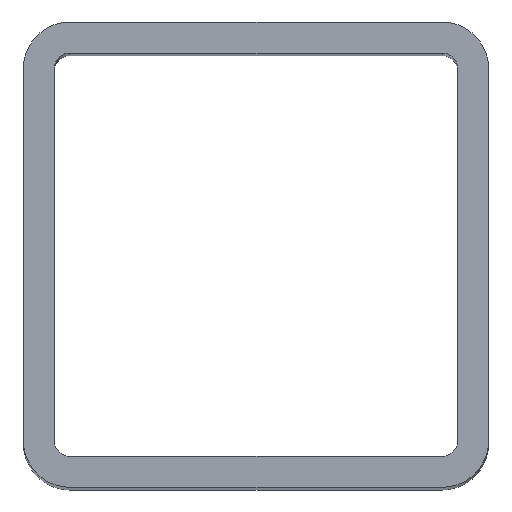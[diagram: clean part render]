
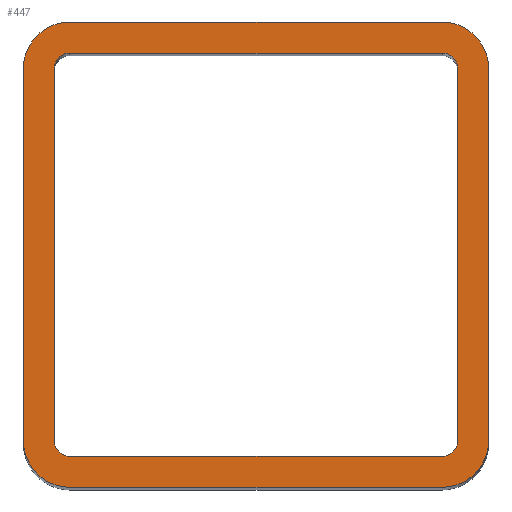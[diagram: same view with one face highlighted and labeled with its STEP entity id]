
A CAD part, top view. The second image highlights one B-rep face of the part: STEP entity #447.
In plain terms, the highlighted planar face has unit normal (0, 0, 1).
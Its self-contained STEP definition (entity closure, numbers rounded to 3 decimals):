
#2 = DIRECTION ( 'NONE',  ( 1., 0., 0. ) ) ;
#9 = DIRECTION ( 'NONE',  ( -1., 0., 0. ) ) ;
#10 = LINE ( 'NONE', #260, #309 ) ;
#21 = AXIS2_PLACEMENT_3D ( 'NONE', #455, #496, #396 ) ;
#24 = DIRECTION ( 'NONE',  ( -1., 0., 0. ) ) ;
#33 = VERTEX_POINT ( 'NONE', #321 ) ;
#34 = VECTOR ( 'NONE', #452, 1000. ) ;
#35 = CARTESIAN_POINT ( 'NONE',  ( -13., 12., 100. ) ) ;
#36 = EDGE_CURVE ( 'NONE', #634, #520, #10, .T. ) ;
#40 = ORIENTED_EDGE ( 'NONE', *, *, #647, .T. ) ;
#41 = DIRECTION ( 'NONE',  ( 0., 0., 1. ) ) ;
#48 = VERTEX_POINT ( 'NONE', #165 ) ;
#49 = ORIENTED_EDGE ( 'NONE', *, *, #344, .T. ) ;
#56 = AXIS2_PLACEMENT_3D ( 'NONE', #483, #489, #393 ) ;
#58 = ORIENTED_EDGE ( 'NONE', *, *, #123, .F. ) ;
#60 = VECTOR ( 'NONE', #102, 1000. ) ;
#62 = DIRECTION ( 'NONE',  ( -1., 0., 0. ) ) ;
#71 = ORIENTED_EDGE ( 'NONE', *, *, #398, .T. ) ;
#79 = ORIENTED_EDGE ( 'NONE', *, *, #402, .T. ) ;
#86 = AXIS2_PLACEMENT_3D ( 'NONE', #131, #266, #626 ) ;
#93 = VERTEX_POINT ( 'NONE', #381 ) ;
#98 = CARTESIAN_POINT ( 'NONE',  ( 15., 12., 100. ) ) ;
#100 = DIRECTION ( 'NONE',  ( 1., 0., 0. ) ) ;
#102 = DIRECTION ( 'NONE',  ( 0., 1., 0. ) ) ;
#103 = DIRECTION ( 'NONE',  ( 0., 0., 1. ) ) ;
#107 = DIRECTION ( 'NONE',  ( 1., 0., 0. ) ) ;
#108 = CARTESIAN_POINT ( 'NONE',  ( -12., -15., 100. ) ) ;
#109 = ORIENTED_EDGE ( 'NONE', *, *, #317, .F. ) ;
#116 = CARTESIAN_POINT ( 'NONE',  ( -13., -12., 100. ) ) ;
#123 = EDGE_CURVE ( 'NONE', #520, #186, #268, .T. ) ;
#124 = AXIS2_PLACEMENT_3D ( 'NONE', #236, #596, #2 ) ;
#129 = VECTOR ( 'NONE', #273, 1000. ) ;
#131 = CARTESIAN_POINT ( 'NONE',  ( -12., 12., 100. ) ) ;
#133 = EDGE_CURVE ( 'NONE', #439, #433, #252, .T. ) ;
#140 = ORIENTED_EDGE ( 'NONE', *, *, #478, .F. ) ;
#144 = CARTESIAN_POINT ( 'NONE',  ( -15., -12., 100. ) ) ;
#147 = DIRECTION ( 'NONE',  ( 0., 1., 0. ) ) ;
#163 = CARTESIAN_POINT ( 'NONE',  ( 13., 12., 100. ) ) ;
#165 = CARTESIAN_POINT ( 'NONE',  ( 15., -12., 100. ) ) ;
#169 = AXIS2_PLACEMENT_3D ( 'NONE', #241, #302, #296 ) ;
#174 = VERTEX_POINT ( 'NONE', #324 ) ;
#179 = ORIENTED_EDGE ( 'NONE', *, *, #366, .F. ) ;
#180 = CARTESIAN_POINT ( 'NONE',  ( 12., -15., 100. ) ) ;
#186 = VERTEX_POINT ( 'NONE', #35 ) ;
#190 = EDGE_CURVE ( 'NONE', #311, #48, #329, .T. ) ;
#191 = VERTEX_POINT ( 'NONE', #529 ) ;
#204 = EDGE_LOOP ( 'NONE', ( #472, #593, #49, #71, #79, #487, #40, #397 ) ) ;
#210 = AXIS2_PLACEMENT_3D ( 'NONE', #559, #103, #9 ) ;
#217 = CIRCLE ( 'NONE', #21, 1. ) ;
#233 = CARTESIAN_POINT ( 'NONE',  ( -13., -12., 100. ) ) ;
#236 = CARTESIAN_POINT ( 'NONE',  ( 12., -12., 100. ) ) ;
#241 = CARTESIAN_POINT ( 'NONE',  ( -12., 12., 100. ) ) ;
#252 = LINE ( 'NONE', #475, #129 ) ;
#259 = VECTOR ( 'NONE', #459, 1000. ) ;
#260 = CARTESIAN_POINT ( 'NONE',  ( -12., 13., 100. ) ) ;
#263 = VERTEX_POINT ( 'NONE', #590 ) ;
#266 = DIRECTION ( 'NONE',  ( 0., 0., 1. ) ) ;
#268 = CIRCLE ( 'NONE', #86, 1. ) ;
#273 = DIRECTION ( 'NONE',  ( 0., -1., 0. ) ) ;
#277 = CARTESIAN_POINT ( 'NONE',  ( -12., -12., 100. ) ) ;
#290 = ORIENTED_EDGE ( 'NONE', *, *, #36, .F. ) ;
#292 = LINE ( 'NONE', #606, #571 ) ;
#296 = DIRECTION ( 'NONE',  ( -1., 0., 0. ) ) ;
#298 = PLANE ( 'NONE',  #482 ) ;
#302 = DIRECTION ( 'NONE',  ( 0., 0., 1. ) ) ;
#305 = AXIS2_PLACEMENT_3D ( 'NONE', #277, #41, #390 ) ;
#309 = VECTOR ( 'NONE', #24, 1000. ) ;
#311 = VERTEX_POINT ( 'NONE', #180 ) ;
#317 = EDGE_CURVE ( 'NONE', #642, #600, #536, .T. ) ;
#320 = FACE_OUTER_BOUND ( 'NONE', #204, .T. ) ;
#321 = CARTESIAN_POINT ( 'NONE',  ( -12., -15., 100. ) ) ;
#324 = CARTESIAN_POINT ( 'NONE',  ( -12., 15., 100. ) ) ;
#328 = DIRECTION ( 'NONE',  ( 0., 0., 1. ) ) ;
#329 = CIRCLE ( 'NONE', #337, 3. ) ;
#337 = AXIS2_PLACEMENT_3D ( 'NONE', #630, #328, #378 ) ;
#343 = FACE_BOUND ( 'NONE', #417, .T. ) ;
#344 = EDGE_CURVE ( 'NONE', #191, #93, #419, .T. ) ;
#346 = CARTESIAN_POINT ( 'NONE',  ( -15., 12., 100. ) ) ;
#349 = CIRCLE ( 'NONE', #124, 1. ) ;
#356 = CARTESIAN_POINT ( 'NONE',  ( -12., -13., 100. ) ) ;
#360 = VECTOR ( 'NONE', #62, 1000. ) ;
#366 = EDGE_CURVE ( 'NONE', #627, #634, #217, .T. ) ;
#378 = DIRECTION ( 'NONE',  ( 1., 0., 0. ) ) ;
#381 = CARTESIAN_POINT ( 'NONE',  ( 12., 15., 100. ) ) ;
#390 = DIRECTION ( 'NONE',  ( -1., 0., 0. ) ) ;
#393 = DIRECTION ( 'NONE',  ( -1., 0., 0. ) ) ;
#396 = DIRECTION ( 'NONE',  ( -1., 0., 0. ) ) ;
#397 = ORIENTED_EDGE ( 'NONE', *, *, #495, .T. ) ;
#398 = EDGE_CURVE ( 'NONE', #93, #174, #565, .T. ) ;
#399 = LINE ( 'NONE', #98, #60 ) ;
#400 = CARTESIAN_POINT ( 'NONE',  ( -12., 15., 100. ) ) ;
#402 = EDGE_CURVE ( 'NONE', #174, #439, #586, .T. ) ;
#407 = CIRCLE ( 'NONE', #210, 3. ) ;
#417 = EDGE_LOOP ( 'NONE', ( #290, #179, #140, #577, #614, #109, #560, #58 ) ) ;
#419 = CIRCLE ( 'NONE', #56, 3. ) ;
#429 = EDGE_CURVE ( 'NONE', #48, #191, #399, .T. ) ;
#432 = EDGE_CURVE ( 'NONE', #620, #263, #349, .T. ) ;
#433 = VERTEX_POINT ( 'NONE', #144 ) ;
#439 = VERTEX_POINT ( 'NONE', #346 ) ;
#444 = EDGE_CURVE ( 'NONE', #186, #642, #474, .T. ) ;
#447 = ADVANCED_FACE ( 'NONE', ( #320, #343 ), #298, .T. ) ;
#452 = DIRECTION ( 'NONE',  ( 0., -1., 0. ) ) ;
#455 = CARTESIAN_POINT ( 'NONE',  ( 12., 12., 100. ) ) ;
#459 = DIRECTION ( 'NONE',  ( 1., 0., 0. ) ) ;
#464 = LINE ( 'NONE', #108, #259 ) ;
#472 = ORIENTED_EDGE ( 'NONE', *, *, #190, .T. ) ;
#474 = LINE ( 'NONE', #233, #34 ) ;
#475 = CARTESIAN_POINT ( 'NONE',  ( -15., -12., 100. ) ) ;
#478 = EDGE_CURVE ( 'NONE', #263, #627, #292, .T. ) ;
#482 = AXIS2_PLACEMENT_3D ( 'NONE', #542, #650, #100 ) ;
#483 = CARTESIAN_POINT ( 'NONE',  ( 12., 12., 100. ) ) ;
#487 = ORIENTED_EDGE ( 'NONE', *, *, #133, .T. ) ;
#489 = DIRECTION ( 'NONE',  ( 0., 0., 1. ) ) ;
#495 = EDGE_CURVE ( 'NONE', #33, #311, #464, .T. ) ;
#496 = DIRECTION ( 'NONE',  ( 0., 0., 1. ) ) ;
#497 = CARTESIAN_POINT ( 'NONE',  ( -12., -13., 100. ) ) ;
#509 = CARTESIAN_POINT ( 'NONE',  ( 12., -13., 100. ) ) ;
#520 = VERTEX_POINT ( 'NONE', #609 ) ;
#529 = CARTESIAN_POINT ( 'NONE',  ( 15., 12., 100. ) ) ;
#536 = CIRCLE ( 'NONE', #305, 1. ) ;
#542 = CARTESIAN_POINT ( 'NONE',  ( 12., -12., 100. ) ) ;
#559 = CARTESIAN_POINT ( 'NONE',  ( -12., -12., 100. ) ) ;
#560 = ORIENTED_EDGE ( 'NONE', *, *, #444, .F. ) ;
#565 = LINE ( 'NONE', #400, #360 ) ;
#569 = EDGE_CURVE ( 'NONE', #600, #620, #629, .T. ) ;
#571 = VECTOR ( 'NONE', #147, 1000. ) ;
#577 = ORIENTED_EDGE ( 'NONE', *, *, #432, .F. ) ;
#586 = CIRCLE ( 'NONE', #169, 3. ) ;
#590 = CARTESIAN_POINT ( 'NONE',  ( 13., -12., 100. ) ) ;
#593 = ORIENTED_EDGE ( 'NONE', *, *, #429, .T. ) ;
#596 = DIRECTION ( 'NONE',  ( 0., 0., 1. ) ) ;
#600 = VERTEX_POINT ( 'NONE', #356 ) ;
#602 = VECTOR ( 'NONE', #107, 1000. ) ;
#606 = CARTESIAN_POINT ( 'NONE',  ( 13., -12., 100. ) ) ;
#609 = CARTESIAN_POINT ( 'NONE',  ( -12., 13., 100. ) ) ;
#614 = ORIENTED_EDGE ( 'NONE', *, *, #569, .F. ) ;
#618 = CARTESIAN_POINT ( 'NONE',  ( 12., 13., 100. ) ) ;
#620 = VERTEX_POINT ( 'NONE', #509 ) ;
#626 = DIRECTION ( 'NONE',  ( -1., 0., 0. ) ) ;
#627 = VERTEX_POINT ( 'NONE', #163 ) ;
#629 = LINE ( 'NONE', #497, #602 ) ;
#630 = CARTESIAN_POINT ( 'NONE',  ( 12., -12., 100. ) ) ;
#634 = VERTEX_POINT ( 'NONE', #618 ) ;
#642 = VERTEX_POINT ( 'NONE', #116 ) ;
#647 = EDGE_CURVE ( 'NONE', #433, #33, #407, .T. ) ;
#650 = DIRECTION ( 'NONE',  ( 0., 0., 1. ) ) ;
